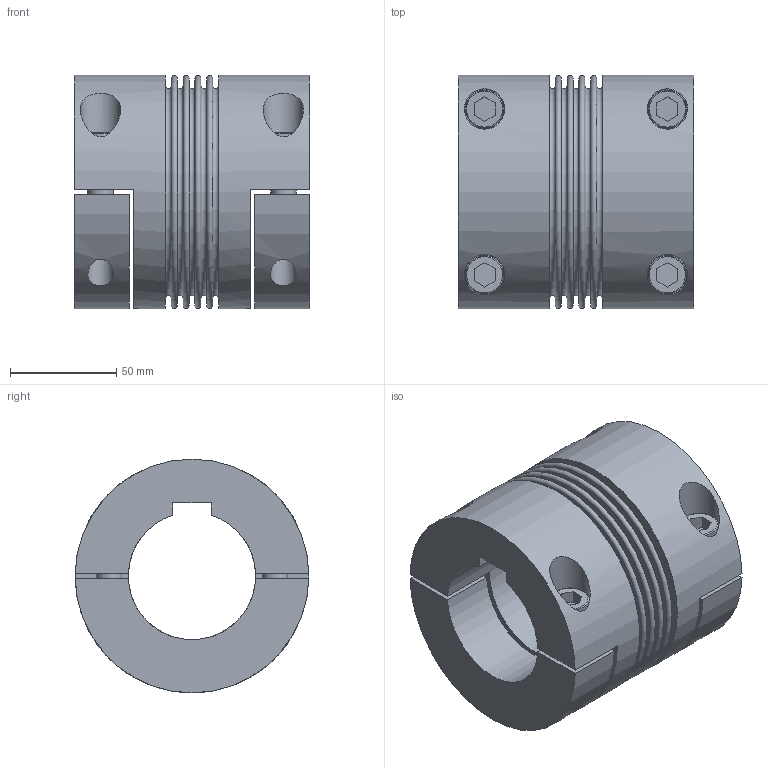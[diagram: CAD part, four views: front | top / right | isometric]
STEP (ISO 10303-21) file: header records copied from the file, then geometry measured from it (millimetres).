
FILE_DESCRIPTION(/* description */ ('STEP AP214'),/* implementation_level */ '2;1');
FILE_NAME(/* name */ 'C:\Diequa Files\DieQua Coupling\BCS\STP\BCS.300.111.#.#.stp',/* time_stamp */ '2018-11-15T09:43:07-06:00',/* author */ ('DiequaCAD'),/* organization */ (''),/* preprocessor_version */ 'ST-DEVELOPER v17.2',/* originating_system */ 'Autodesk Inventor 2019',/* authorisation */ ' ');
FILE_SCHEMA (('AUTOMOTIVE_DESIGN { 1 0 10303 214 3 1 1 }'));
Length unit declared in the file: millimetre
Products named in the file (1): BKH_300_111_60_PFN_60_PFN_27
Bounding box: 111 x 110 x 110 mm (x, y, z)
Volume: 572507 mm3; surface area: 126577 mm2
Topology: 1 solids, 1 shells, 112 faces, 260 edges, 180 vertices
Faces by surface type: plane 74, cylinder 25, torus 13
Full cylindrical faces by diameter (mm): 12 x8, 18 x4, 19 x4, 90 x1, 110 x2
Entity records: 3587 total; most frequent: CARTESIAN_POINT 853, DIRECTION 579, ORIENTED_EDGE 520, EDGE_CURVE 260, AXIS2_PLACEMENT_3D 218, VERTEX_POINT 180, EDGE_LOOP 148, LINE 143
